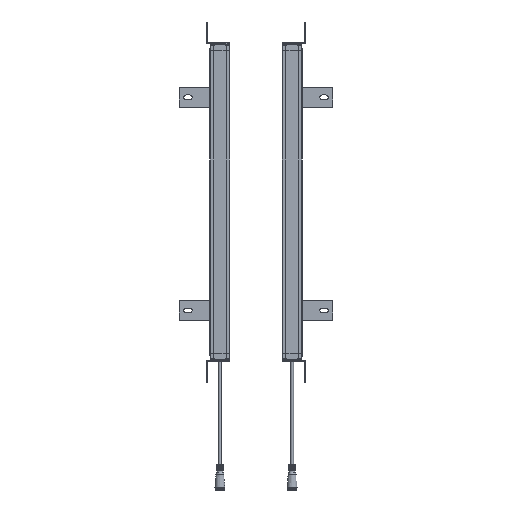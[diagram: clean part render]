
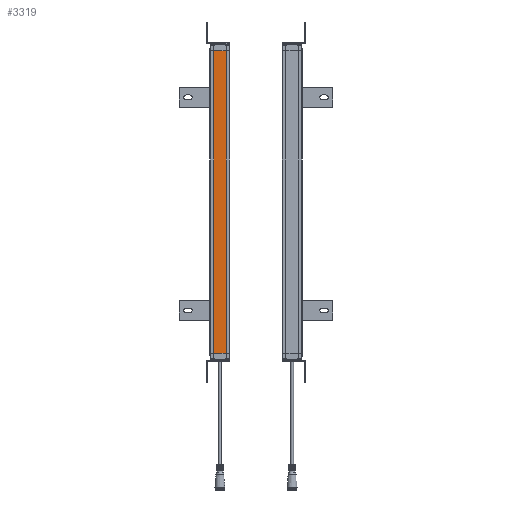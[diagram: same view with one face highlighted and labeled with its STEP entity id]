
A CAD part, left-side view. The second image highlights one B-rep face of the part: STEP entity #3319.
In plain terms, the highlighted planar face has unit normal (-1, 0, 0).
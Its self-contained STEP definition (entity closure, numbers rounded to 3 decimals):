
#1795=FACE_OUTER_BOUND('',#5986,.T.);
#3319=ADVANCED_FACE('',(#1795),#4749,.T.);
#4749=PLANE('',#29857);
#5986=EDGE_LOOP('',(#9184,#9185,#9186,#9187));
#9184=ORIENTED_EDGE('',*,*,#19383,.F.);
#9185=ORIENTED_EDGE('',*,*,#19072,.T.);
#9186=ORIENTED_EDGE('',*,*,#19385,.T.);
#9187=ORIENTED_EDGE('',*,*,#19386,.F.);
#16145=VERTEX_POINT('',#43699);
#16146=VERTEX_POINT('',#43701);
#16357=VERTEX_POINT('',#44323);
#16358=VERTEX_POINT('',#44327);
#19072=EDGE_CURVE('',#16146,#16145,#24663,.T.);
#19383=EDGE_CURVE('',#16146,#16357,#24884,.T.);
#19385=EDGE_CURVE('',#16145,#16358,#24886,.T.);
#19386=EDGE_CURVE('',#16357,#16358,#24887,.T.);
#24663=LINE('',#43700,#27142);
#24884=LINE('',#44322,#27363);
#24886=LINE('',#44326,#27365);
#24887=LINE('',#44328,#27366);
#27142=VECTOR('',#33404,1.);
#27363=VECTOR('',#34005,1.);
#27365=VECTOR('',#34009,1.);
#27366=VECTOR('',#34010,1.);
#29857=AXIS2_PLACEMENT_3D('',#44329,#34011,#34012);
#33404=DIRECTION('',(0.,1.,0.));
#34005=DIRECTION('',(0.,0.,-1.));
#34009=DIRECTION('',(0.,0.,-1.));
#34010=DIRECTION('',(0.,1.,0.));
#34011=DIRECTION('',(-1.,0.,0.));
#34012=DIRECTION('',(0.,1.,0.));
#43699=CARTESIAN_POINT('',(50.4,-5.5,398.059));
#43700=CARTESIAN_POINT('',(50.4,-5.5,398.059));
#43701=CARTESIAN_POINT('',(50.4,-23.5,398.059));
#44322=CARTESIAN_POINT('',(50.4,-23.5,103.059));
#44323=CARTESIAN_POINT('',(50.4,-23.5,-41.941));
#44326=CARTESIAN_POINT('',(50.4,-5.5,103.059));
#44327=CARTESIAN_POINT('',(50.4,-5.5,-41.941));
#44328=CARTESIAN_POINT('',(50.4,-23.5,-41.941));
#44329=CARTESIAN_POINT('',(50.4,-5.5,-61.941));
